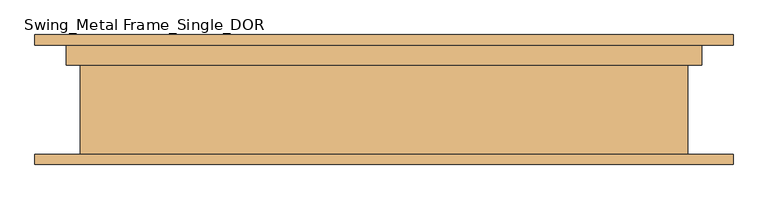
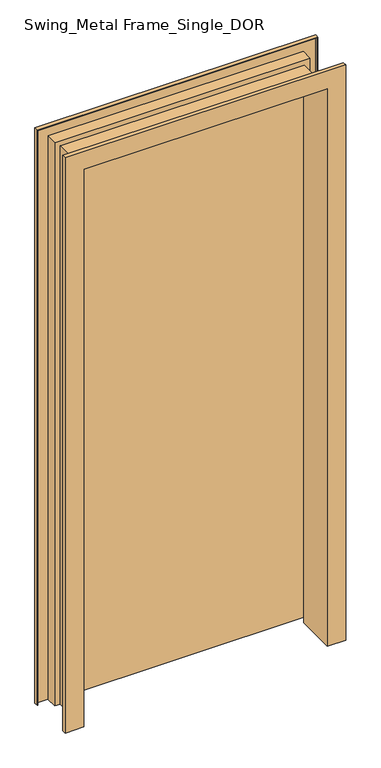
"""IFC4 building model written with IfcOpenShell, lengths in millimetres: door geometry, Swing_Metal Frame_Single_DOR : 2140h x 920 (2210x1010 BLK)."""

from ifc_helpers import new_model, si_unit, frame, origin, place, context, project, spatial, polyline, outline, extrude, faceted_brep, source, transform, mapped, element, save


def swing_metal_frame_single_dor_3a6922c5(model_context):
    return source(origin(), model_context, "Body", "SolidModel", [
        extrude(outline(polyline([(460.0, 115.0), (460.0, 75.0), (-460.0, 75.0), (-460.0, 115.0), (460.0, 115.0)])), frame((0.0, 0.0, 20.0), z_axis=(0.0, 0.0, 1.0), x_axis=(1.0, 0.0, 0.0)), (0.0, 0.0, 1.0), 2140.0),
        faceted_brep([(-510.0, -75.0, 0.0), (-510.0, -60.0, 0.0), (-508.0, -60.0, 0.0), (-508.0, -73.0, 0.0), (-444.0, -73.0, 0.0), (-444.0, 71.0, 0.0), (-464.0, 71.0, 0.0), (-464.0, 113.0, 0.0), (-508.0, 113.0, 0.0), (-508.0, 100.0, 0.0), (-510.0, 100.0, 0.0), (-510.0, 115.0, 0.0), (-462.0, 115.0, 0.0), (-462.0, 73.0, 0.0), (-442.0, 73.0, 0.0), (-442.0, -75.0, 0.0), (-510.0, -75.0, 2210.0), (-510.0, -60.0, 2210.0), (510.0, -60.0, 2210.0), (510.0, -60.0, 0.0), (508.0, -60.0, 0.0), (508.0, -60.0, 2208.0), (-508.0, -60.0, 2208.0), (-508.0, -73.0, 2208.0), (508.0, -73.0, 2208.0), (508.0, -73.0, 0.0), (444.0, -73.0, 0.0), (444.0, -73.0, 2144.0), (-444.0, -73.0, 2144.0), (-444.0, 71.0, 2144.0), (444.0, 71.0, 2144.0), (444.0, 71.0, 0.0), (464.0, 71.0, 0.0), (464.0, 71.0, 2164.0), (-464.0, 71.0, 2164.0), (-464.0, 113.0, 2164.0), (464.0, 113.0, 2164.0), (464.0, 113.0, 0.0), (508.0, 113.0, 0.0), (508.0, 113.0, 2208.0), (-508.0, 113.0, 2208.0), (-508.0, 100.0, 2208.0), (508.0, 100.0, 2208.0), (508.0, 100.0, 0.0), (510.0, 100.0, 0.0), (510.0, 100.0, 2210.0), (-510.0, 100.0, 2210.0), (-510.0, 115.0, 2210.0), (510.0, 115.0, 2210.0), (510.0, 115.0, 0.0), (462.0, 115.0, 0.0), (462.0, 115.0, 2162.0), (-462.0, 115.0, 2162.0), (-462.0, 73.0, 2162.0), (462.0, 73.0, 2162.0), (462.0, 73.0, 0.0), (442.0, 73.0, 0.0), (442.0, 73.0, 2142.0), (-442.0, 73.0, 2142.0), (-442.0, -75.0, 2142.0), (442.0, -75.0, 2142.0), (442.0, -75.0, 0.0), (510.0, -75.0, 0.0), (510.0, -75.0, 2210.0)], [[[0, 1, 2, 3, 4, 5, 6, 7, 8, 9, 10, 11, 12, 13, 14, 15]], [[1, 0, 16, 17]], [[2, 1, 17, 18, 19, 20, 21, 22]], [[3, 2, 22, 23]], [[4, 3, 23, 24, 25, 26, 27, 28]], [[5, 4, 28, 29]], [[6, 5, 29, 30, 31, 32, 33, 34]], [[7, 6, 34, 35]], [[8, 7, 35, 36, 37, 38, 39, 40]], [[9, 8, 40, 41]], [[10, 9, 41, 42, 43, 44, 45, 46]], [[11, 10, 46, 47]], [[12, 11, 47, 48, 49, 50, 51, 52]], [[13, 12, 52, 53]], [[14, 13, 53, 54, 55, 56, 57, 58]], [[15, 14, 58, 59]], [[0, 15, 59, 60, 61, 62, 63, 16]], [[18, 63, 62, 19]], [[62, 61, 56, 55, 50, 49, 44, 43, 38, 37, 32, 31, 26, 25, 20, 19]], [[24, 21, 20, 25]], [[30, 27, 26, 31]], [[36, 33, 32, 37]], [[42, 39, 38, 43]], [[48, 45, 44, 49]], [[54, 51, 50, 55]], [[60, 57, 56, 61]], [[17, 16, 63, 18]], [[23, 22, 21, 24]], [[29, 28, 27, 30]], [[35, 34, 33, 36]], [[41, 40, 39, 42]], [[47, 46, 45, 48]], [[53, 52, 51, 54]], [[59, 58, 57, 60]]]),
    ])


if __name__ == "__main__":
    model = new_model("IFC4")
    model_context = context("Model", 3, world=origin())
    ifc_project = project(units=[si_unit("LENGTHUNIT", "METRE", prefix="MILLI")], contexts=[model_context])
    site = spatial("IfcSite", under=ifc_project)
    building = spatial("IfcBuilding", under=site)
    placement = place(None, origin())
    swing_metal_frame_single_dor_shape = swing_metal_frame_single_dor_3a6922c5(model_context)
    element("IfcDoor", 1, ObjectType="Swing_Metal Frame_Single_DOR : 2140h x 920 (2210x1010 BLK)", at=placement, inside=building, context=model_context, shape_type="MappedRepresentation", body=[
        mapped(swing_metal_frame_single_dor_shape, transform((0.0, 0.0, 0.0), x_axis=(1.0, 0.0, 0.0), y_axis=(0.0, 1.0, 0.0), z_axis=(0.0, 0.0, 1.0))),
    ])
    save(model, "model.ifc")
